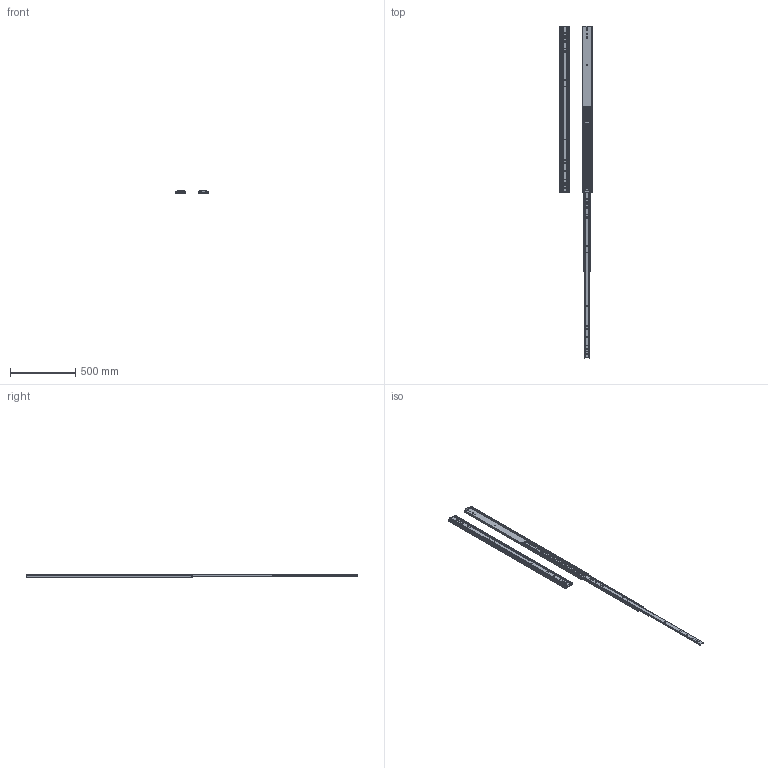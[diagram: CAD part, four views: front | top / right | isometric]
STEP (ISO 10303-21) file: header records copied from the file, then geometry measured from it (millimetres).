
FILE_DESCRIPTION((''),'2;1');
FILE_NAME('ASSEM1_1_2_3_4_5_6_7_8_9_10__21_ASM','2026-04-08T10:14:13',('T260078'),(''),'CREO PARAMETRIC BY PTC INC, 2025123','CREO PARAMETRIC BY PTC INC, 2025123','');
FILE_SCHEMA(('CONFIG_CONTROL_DESIGN','SHAPE_APPEARANCE_LAYERS_GROUPS'));
Length unit declared in the file: millimetre
Products named in the file (6): 76J01-50_X2_540B_X0_-M; 76J01-50_X2_540B_X0_-I; 76J01-50_X2_540B_X0_-O; 76J01-50_X2_540_X0__ASM; 76J01-50_X2_540B_X0_-_X2_5C5595_ASM; ASSEM1_1_2_3_4_5_6_7_8_9_10__21_ASM
Assembly tree (8 placements, depth 3):
  ASSEM1_1_2_3_4_5_6_7_8_9_10__21_ASM
    76J01-50_X2_540_X0__ASM
      76J01-50_X2_540B_X0_-M
      76J01-50_X2_540B_X0_-I
      76J01-50_X2_540B_X0_-O
    76J01-50_X2_540B_X0_-_X2_5C5595_ASM
      76J01-50_X2_540B_X0_-M
      76J01-50_X2_540B_X0_-I
      76J01-50_X2_540B_X0_-O
Bounding box: 245.44 x 2540 x 19.3 mm (x, y, z)
Volume: 1572518.9 mm3; surface area: 1401234.2 mm2
Topology: 6 solids, 6 shells, 380 faces, 1228 edges, 848 vertices
Faces by surface type: cylinder 212, plane 168
Entity records: 8390 total; most frequent: CARTESIAN_POINT 1335, DIRECTION 1244, ORIENTED_EDGE 1228, EDGE_CURVE 614, AXIS2_PLACEMENT_3D 444, VERTEX_POINT 424, VECTOR 356, LINE 356
